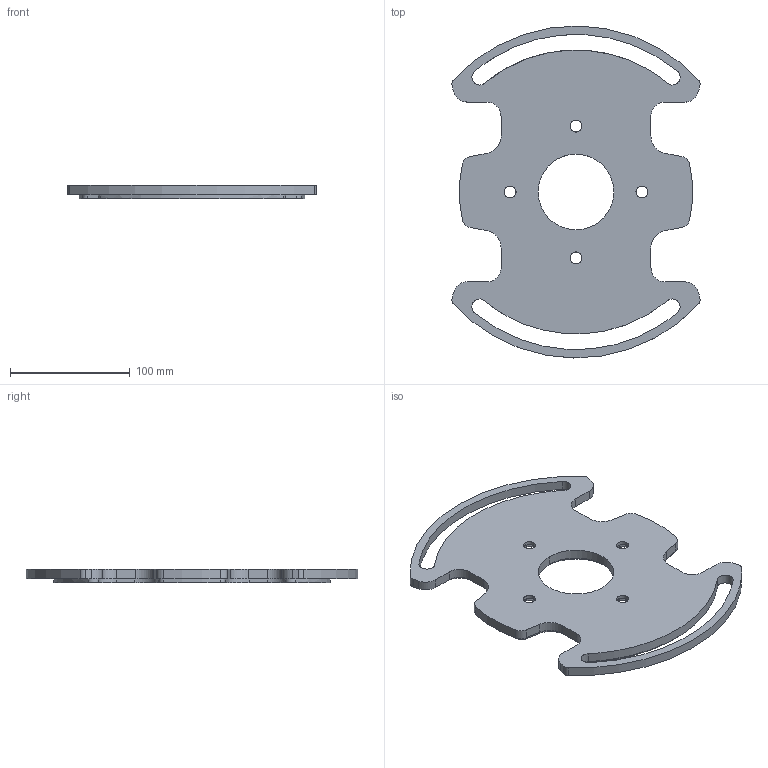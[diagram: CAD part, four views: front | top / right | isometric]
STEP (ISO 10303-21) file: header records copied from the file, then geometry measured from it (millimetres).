
FILE_DESCRIPTION(/* description */ (''),/* implementation_level */ '2;1');
FILE_NAME(/* name */ 'ROXX_NEO mini i_Mount 0°_3D_step',/* time_stamp */ '2025-07-25T13:48:26+02:00',/* author */ (''),/* organization */ (''),/* preprocessor_version */ 'ST-DEVELOPER v16.5',/* originating_system */ 'Rhino 7.38',/* authorisation */ '');
FILE_SCHEMA (('CONFIG_CONTROL_DESIGN'));
Length unit declared in the file: millimetre
Products named in the file (1): Document
Bounding box: 207.16 x 276.98 x 11 mm (x, y, z)
Volume: 356418.8 mm3; surface area: 91215.4 mm2
Topology: 1 solids, 1 shells, 112 faces, 304 edges, 200 vertices
Faces by surface type: cylinder 72, plane 32, bspline 8
Entity records: 3390 total; most frequent: CARTESIAN_POINT 1346, ORIENTED_EDGE 608, EDGE_CURVE 304, VERTEX_POINT 200, B_SPLINE_CURVE_WITH_KNOTS 152, EDGE_LOOP 132, ADVANCED_FACE 112, FACE_OUTER_BOUND 112
